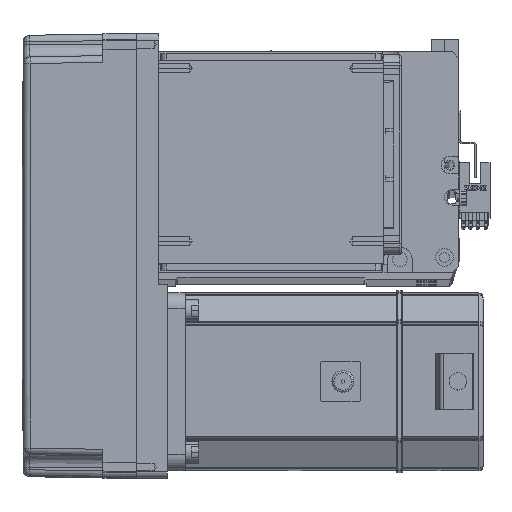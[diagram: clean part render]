
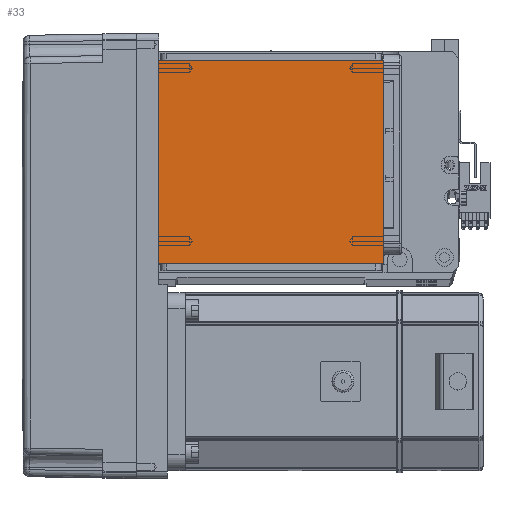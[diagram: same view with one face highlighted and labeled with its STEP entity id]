
A CAD part, top view. The second image highlights one B-rep face of the part: STEP entity #33.
In plain terms, the highlighted planar face has unit normal (0, 0, 1).
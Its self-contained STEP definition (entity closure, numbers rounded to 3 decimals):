
#33 = ADVANCED_FACE ( 'NONE', ( #14797 ), #41703, .T. ) ;
#707 = LINE ( 'NONE', #11991, #12462 ) ;
#1102 = CARTESIAN_POINT ( 'NONE',  ( 50.5, 20., 115. ) ) ;
#3051 = CARTESIAN_POINT ( 'NONE',  ( 50.5, 111.5, 115. ) ) ;
#4243 = DIRECTION ( 'NONE',  ( 0., 1., 0. ) ) ;
#4251 = CARTESIAN_POINT ( 'NONE',  ( -50.5, 111.5, 115. ) ) ;
#10046 = EDGE_CURVE ( 'NONE', #48574, #43604, #31750, .T. ) ;
#11991 = CARTESIAN_POINT ( 'NONE',  ( -70.004, 111.5, 115. ) ) ;
#12462 = VECTOR ( 'NONE', #34866, 1000. ) ;
#12515 = AXIS2_PLACEMENT_3D ( 'NONE', #60745, #32343, #22886 ) ;
#12801 = CARTESIAN_POINT ( 'NONE',  ( 50.5, 122., 115. ) ) ;
#14558 = CARTESIAN_POINT ( 'NONE',  ( -70.004, 20., 115. ) ) ;
#14797 = FACE_OUTER_BOUND ( 'NONE', #47244, .T. ) ;
#21160 = EDGE_CURVE ( 'NONE', #22272, #43604, #44463, .T. ) ;
#22272 = VERTEX_POINT ( 'NONE', #4251 ) ;
#22886 = DIRECTION ( 'NONE',  ( 1., 0., 0. ) ) ;
#25471 = CARTESIAN_POINT ( 'NONE',  ( -50.5, 20., 115. ) ) ;
#25757 = LINE ( 'NONE', #12801, #30172 ) ;
#28523 = DIRECTION ( 'NONE',  ( -1., 0., 0. ) ) ;
#30172 = VECTOR ( 'NONE', #4243, 1000. ) ;
#31750 = LINE ( 'NONE', #14558, #45847 ) ;
#32343 = DIRECTION ( 'NONE',  ( 0., 0., 1. ) ) ;
#34866 = DIRECTION ( 'NONE',  ( 1., 0., 0. ) ) ;
#40185 = DIRECTION ( 'NONE',  ( 0., -1., 0. ) ) ;
#41467 = ORIENTED_EDGE ( 'NONE', *, *, #50183, .F. ) ;
#41703 = PLANE ( 'NONE',  #12515 ) ;
#42251 = VECTOR ( 'NONE', #40185, 1000. ) ;
#43604 = VERTEX_POINT ( 'NONE', #25471 ) ;
#44463 = LINE ( 'NONE', #55066, #42251 ) ;
#45146 = EDGE_CURVE ( 'NONE', #48574, #59862, #25757, .T. ) ;
#45847 = VECTOR ( 'NONE', #28523, 1000. ) ;
#47244 = EDGE_LOOP ( 'NONE', ( #41467, #55894, #50546, #55079 ) ) ;
#48574 = VERTEX_POINT ( 'NONE', #1102 ) ;
#50183 = EDGE_CURVE ( 'NONE', #22272, #59862, #707, .T. ) ;
#50546 = ORIENTED_EDGE ( 'NONE', *, *, #10046, .F. ) ;
#55066 = CARTESIAN_POINT ( 'NONE',  ( -50.5, 122., 115. ) ) ;
#55079 = ORIENTED_EDGE ( 'NONE', *, *, #45146, .T. ) ;
#55894 = ORIENTED_EDGE ( 'NONE', *, *, #21160, .T. ) ;
#59862 = VERTEX_POINT ( 'NONE', #3051 ) ;
#60745 = CARTESIAN_POINT ( 'NONE',  ( 0., 0., 115. ) ) ;
